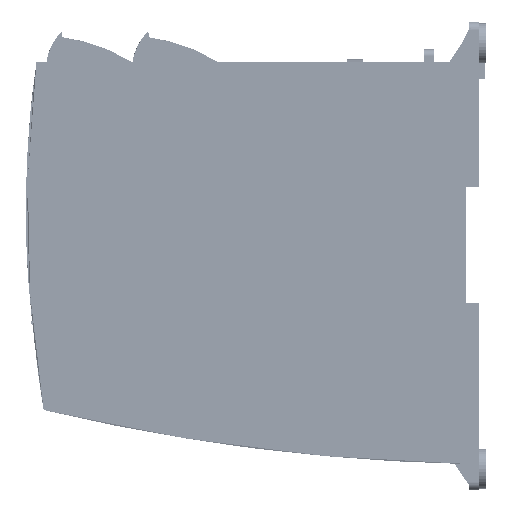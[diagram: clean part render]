
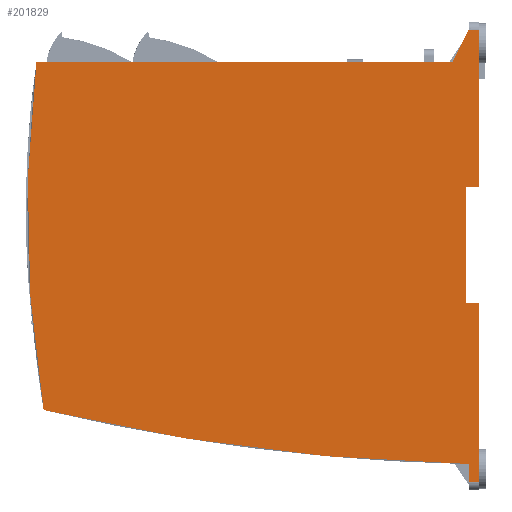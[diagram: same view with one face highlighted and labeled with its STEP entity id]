
A CAD part, left-side view. The second image highlights one B-rep face of the part: STEP entity #201829.
In plain terms, the highlighted planar face has unit normal (-1, 0, 0).
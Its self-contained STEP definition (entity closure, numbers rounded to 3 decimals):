
#19 = EDGE_CURVE ( 'NONE', #161904, #156622, #191573, .T. ) ;
#69 = DIRECTION ( 'NONE',  ( 0., -1., 0. ) ) ;
#346 = LINE ( 'NONE', #233617, #247938 ) ;
#1776 = EDGE_CURVE ( 'NONE', #247278, #320121, #70600, .T. ) ;
#6546 = ORIENTED_EDGE ( 'NONE', *, *, #149023, .T. ) ;
#10809 = VECTOR ( 'NONE', #234445, 1000. ) ;
#13831 = LINE ( 'NONE', #113388, #97532 ) ;
#13998 = CARTESIAN_POINT ( 'NONE',  ( -248., -8.592, 552.54 ) ) ;
#19096 = CIRCLE ( 'NONE', #71554, 376.588 ) ;
#20313 = CARTESIAN_POINT ( 'NONE',  ( -248., 0., 69.5 ) ) ;
#26582 = VERTEX_POINT ( 'NONE', #279902 ) ;
#29947 = CARTESIAN_POINT ( 'NONE',  ( -248., 0., -14.5 ) ) ;
#31170 = CARTESIAN_POINT ( 'NONE',  ( -248., 3.2, 69.5 ) ) ;
#32492 = DIRECTION ( 'NONE',  ( 0., 0., -1. ) ) ;
#38454 = DIRECTION ( 'NONE',  ( 0., 0., -1. ) ) ;
#39482 = CARTESIAN_POINT ( 'NONE',  ( -248., 3.2, 69.5 ) ) ;
#44033 = DIRECTION ( 'NONE',  ( 0., -1., 0. ) ) ;
#54654 = CARTESIAN_POINT ( 'NONE',  ( -248., 136.2, 59.6 ) ) ;
#59318 = FACE_OUTER_BOUND ( 'NONE', #321053, .T. ) ;
#61151 = EDGE_CURVE ( 'NONE', #81193, #192852, #169688, .T. ) ;
#64980 = CARTESIAN_POINT ( 'NONE',  ( -248., 3.2, 69.6 ) ) ;
#65911 = VECTOR ( 'NONE', #130843, 1000. ) ;
#67575 = AXIS2_PLACEMENT_3D ( 'NONE', #13998, #91872, #138806 ) ;
#68888 = ORIENTED_EDGE ( 'NONE', *, *, #102522, .F. ) ;
#70600 = LINE ( 'NONE', #31170, #10809 ) ;
#71554 = AXIS2_PLACEMENT_3D ( 'NONE', #288037, #240095, #32492 ) ;
#78348 = ORIENTED_EDGE ( 'NONE', *, *, #19, .F. ) ;
#79698 = EDGE_CURVE ( 'NONE', #302340, #209892, #346, .T. ) ;
#81193 = VERTEX_POINT ( 'NONE', #29947 ) ;
#83449 = EDGE_CURVE ( 'NONE', #320121, #192852, #113734, .T. ) ;
#85274 = AXIS2_PLACEMENT_3D ( 'NONE', #305737, #103676, #330363 ) ;
#88983 = DIRECTION ( 'NONE',  ( 0., 1., 0. ) ) ;
#91872 = DIRECTION ( 'NONE',  ( 1., 0., 0. ) ) ;
#96308 = VERTEX_POINT ( 'NONE', #158968 ) ;
#96595 = LINE ( 'NONE', #289981, #112596 ) ;
#97532 = VECTOR ( 'NONE', #264379, 1000. ) ;
#101238 = CARTESIAN_POINT ( 'NONE',  ( -248., 134., -47.4 ) ) ;
#101901 = ORIENTED_EDGE ( 'NONE', *, *, #83449, .T. ) ;
#102522 = EDGE_CURVE ( 'NONE', #325812, #96308, #301611, .T. ) ;
#103676 = DIRECTION ( 'NONE',  ( -1., 0., 0. ) ) ;
#106645 = VECTOR ( 'NONE', #223242, 1000. ) ;
#112596 = VECTOR ( 'NONE', #88983, 1000. ) ;
#113388 = CARTESIAN_POINT ( 'NONE',  ( -248., 8.2, 59.6 ) ) ;
#113734 = LINE ( 'NONE', #147662, #177923 ) ;
#117618 = LINE ( 'NONE', #261618, #65911 ) ;
#122183 = CARTESIAN_POINT ( 'NONE',  ( -248., 3.2, -64. ) ) ;
#124109 = ORIENTED_EDGE ( 'NONE', *, *, #245569, .F. ) ;
#125985 = PLANE ( 'NONE',  #85274 ) ;
#130843 = DIRECTION ( 'NONE',  ( 0., -1., 0. ) ) ;
#131594 = CIRCLE ( 'NONE', #67575, 616.652 ) ;
#131845 = CARTESIAN_POINT ( 'NONE',  ( -248., 4., 21.1 ) ) ;
#135337 = ORIENTED_EDGE ( 'NONE', *, *, #149955, .F. ) ;
#138806 = DIRECTION ( 'NONE',  ( 0., 0., 1. ) ) ;
#147547 = ORIENTED_EDGE ( 'NONE', *, *, #286980, .T. ) ;
#147662 = CARTESIAN_POINT ( 'NONE',  ( -248., 3.2, -69.5 ) ) ;
#147936 = CARTESIAN_POINT ( 'NONE',  ( -248., 136.2, 59.6 ) ) ;
#149023 = EDGE_CURVE ( 'NONE', #296005, #96308, #13831, .T. ) ;
#149955 = EDGE_CURVE ( 'NONE', #26582, #302340, #96595, .T. ) ;
#156622 = VERTEX_POINT ( 'NONE', #191874 ) ;
#158968 = CARTESIAN_POINT ( 'NONE',  ( -248., 8.2, 59.6 ) ) ;
#160924 = CARTESIAN_POINT ( 'NONE',  ( -248., 0., -69.5 ) ) ;
#161904 = VERTEX_POINT ( 'NONE', #174271 ) ;
#162357 = VECTOR ( 'NONE', #276936, 1000. ) ;
#165798 = VECTOR ( 'NONE', #69, 1000. ) ;
#167603 = EDGE_CURVE ( 'NONE', #156622, #26582, #234294, .T. ) ;
#168147 = VERTEX_POINT ( 'NONE', #101238 ) ;
#169688 = LINE ( 'NONE', #218127, #257656 ) ;
#174271 = CARTESIAN_POINT ( 'NONE',  ( -248., 3.2, 69.5 ) ) ;
#174571 = LINE ( 'NONE', #274602, #106645 ) ;
#177923 = VECTOR ( 'NONE', #44033, 1000. ) ;
#182112 = DIRECTION ( 'NONE',  ( 0., 0., -1. ) ) ;
#185873 = ORIENTED_EDGE ( 'NONE', *, *, #79698, .F. ) ;
#191573 = LINE ( 'NONE', #39482, #207716 ) ;
#191874 = CARTESIAN_POINT ( 'NONE',  ( -248., 0., 69.5 ) ) ;
#192852 = VERTEX_POINT ( 'NONE', #160924 ) ;
#198104 = ORIENTED_EDGE ( 'NONE', *, *, #167603, .F. ) ;
#201829 = ADVANCED_FACE ( 'NONE', ( #59318 ), #125985, .T. ) ;
#207716 = VECTOR ( 'NONE', #218085, 1000. ) ;
#209892 = VERTEX_POINT ( 'NONE', #284470 ) ;
#218085 = DIRECTION ( 'NONE',  ( 0., -1., 0. ) ) ;
#218127 = CARTESIAN_POINT ( 'NONE',  ( -248., 0., 69.5 ) ) ;
#220997 = CARTESIAN_POINT ( 'NONE',  ( -248., 3.2, -69.5 ) ) ;
#223242 = DIRECTION ( 'NONE',  ( 0., 0., 1. ) ) ;
#233617 = CARTESIAN_POINT ( 'NONE',  ( -248., 4., -14.5 ) ) ;
#234294 = LINE ( 'NONE', #20313, #162357 ) ;
#234445 = DIRECTION ( 'NONE',  ( 0., 0., -1. ) ) ;
#240095 = DIRECTION ( 'NONE',  ( 1., 0., 0. ) ) ;
#244061 = ORIENTED_EDGE ( 'NONE', *, *, #61151, .F. ) ;
#245569 = EDGE_CURVE ( 'NONE', #168147, #325812, #19096, .T. ) ;
#247278 = VERTEX_POINT ( 'NONE', #122183 ) ;
#247938 = VECTOR ( 'NONE', #182112, 1000. ) ;
#257656 = VECTOR ( 'NONE', #38454, 1000. ) ;
#261618 = CARTESIAN_POINT ( 'NONE',  ( -248., 0., -14.5 ) ) ;
#264379 = DIRECTION ( 'NONE',  ( 0., 0.447, -0.894 ) ) ;
#267067 = ORIENTED_EDGE ( 'NONE', *, *, #277756, .F. ) ;
#270183 = EDGE_CURVE ( 'NONE', #247278, #168147, #131594, .T. ) ;
#274602 = CARTESIAN_POINT ( 'NONE',  ( -248., 3.2, 69.6 ) ) ;
#276936 = DIRECTION ( 'NONE',  ( 0., 0., -1. ) ) ;
#277756 = EDGE_CURVE ( 'NONE', #209892, #81193, #117618, .T. ) ;
#279606 = ORIENTED_EDGE ( 'NONE', *, *, #1776, .T. ) ;
#279902 = CARTESIAN_POINT ( 'NONE',  ( -248., 0., 21.1 ) ) ;
#281010 = ORIENTED_EDGE ( 'NONE', *, *, #270183, .F. ) ;
#284470 = CARTESIAN_POINT ( 'NONE',  ( -248., 4., -14.5 ) ) ;
#286980 = EDGE_CURVE ( 'NONE', #161904, #296005, #174571, .T. ) ;
#288037 = CARTESIAN_POINT ( 'NONE',  ( -248., -237.588, 13.763 ) ) ;
#289981 = CARTESIAN_POINT ( 'NONE',  ( -248., 0., 21.1 ) ) ;
#296005 = VERTEX_POINT ( 'NONE', #64980 ) ;
#301611 = LINE ( 'NONE', #54654, #165798 ) ;
#302340 = VERTEX_POINT ( 'NONE', #131845 ) ;
#305737 = CARTESIAN_POINT ( 'NONE',  ( -248., 3.2, 69.5 ) ) ;
#320121 = VERTEX_POINT ( 'NONE', #220997 ) ;
#321053 = EDGE_LOOP ( 'NONE', ( #267067, #185873, #135337, #198104, #78348, #147547, #6546, #68888, #124109, #281010, #279606, #101901, #244061 ) ) ;
#325812 = VERTEX_POINT ( 'NONE', #147936 ) ;
#330363 = DIRECTION ( 'NONE',  ( 0., 0., -1. ) ) ;
